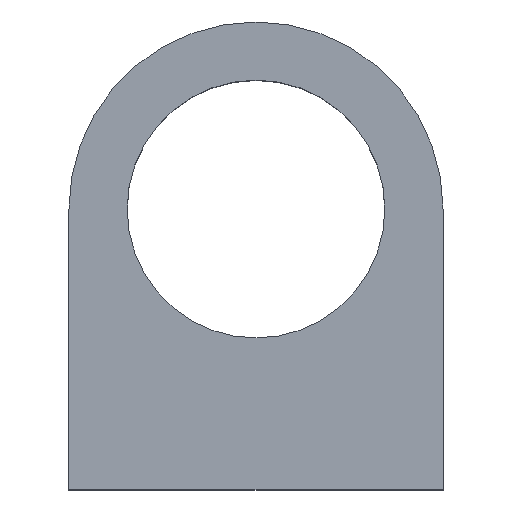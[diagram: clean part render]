
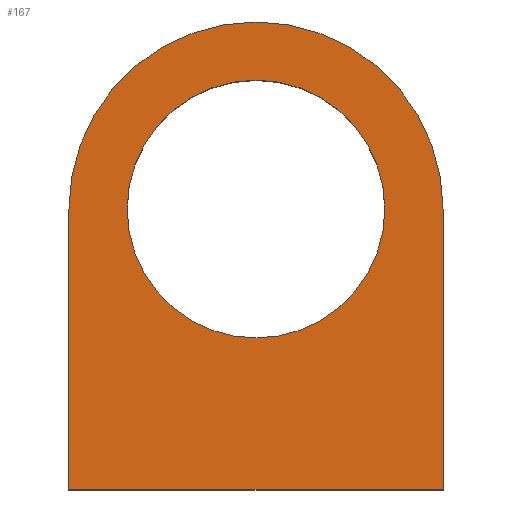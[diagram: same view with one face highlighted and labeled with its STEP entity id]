
A CAD part, top view. The second image highlights one B-rep face of the part: STEP entity #167.
In plain terms, the highlighted planar face has unit normal (0, 0, 1).
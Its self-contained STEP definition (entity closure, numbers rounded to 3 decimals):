
#1 = CARTESIAN_POINT ( 'NONE',  ( -7., 15.24, 10.008 ) ) ;
#2 = FACE_BOUND ( 'NONE', #248, .T. ) ;
#12 = CIRCLE ( 'NONE', #210, 7. ) ;
#13 = EDGE_CURVE ( 'NONE', #36, #112, #118, .T. ) ;
#18 = CARTESIAN_POINT ( 'NONE',  ( 7., 15.24, 10.008 ) ) ;
#25 = PLANE ( 'NONE',  #95 ) ;
#29 = CARTESIAN_POINT ( 'NONE',  ( 0., 15.24, 10.008 ) ) ;
#34 = DIRECTION ( 'NONE',  ( 0., 1., 0. ) ) ;
#35 = EDGE_CURVE ( 'NONE', #175, #65, #139, .T. ) ;
#36 = VERTEX_POINT ( 'NONE', #18 ) ;
#65 = VERTEX_POINT ( 'NONE', #266 ) ;
#75 = CARTESIAN_POINT ( 'NONE',  ( -10.16, 0., 10.008 ) ) ;
#78 = CARTESIAN_POINT ( 'NONE',  ( 0., 15.24, 10.008 ) ) ;
#79 = ORIENTED_EDGE ( 'NONE', *, *, #192, .T. ) ;
#80 = DIRECTION ( 'NONE',  ( 0., 0., 1. ) ) ;
#83 = EDGE_CURVE ( 'NONE', #214, #190, #97, .T. ) ;
#85 = DIRECTION ( 'NONE',  ( 1., 0., 0. ) ) ;
#93 = VECTOR ( 'NONE', #232, 1000. ) ;
#95 = AXIS2_PLACEMENT_3D ( 'NONE', #29, #80, #104 ) ;
#97 = LINE ( 'NONE', #122, #239 ) ;
#99 = DIRECTION ( 'NONE',  ( 1., 0., 0. ) ) ;
#101 = CARTESIAN_POINT ( 'NONE',  ( -10.16, 0., 10.008 ) ) ;
#104 = DIRECTION ( 'NONE',  ( 1., 0., 0. ) ) ;
#108 = CARTESIAN_POINT ( 'NONE',  ( 10.16, 15.24, 10.008 ) ) ;
#111 = ORIENTED_EDGE ( 'NONE', *, *, #252, .F. ) ;
#112 = VERTEX_POINT ( 'NONE', #1 ) ;
#118 = CIRCLE ( 'NONE', #254, 7. ) ;
#122 = CARTESIAN_POINT ( 'NONE',  ( -10.16, 0., 10.008 ) ) ;
#125 = CARTESIAN_POINT ( 'NONE',  ( 10.16, 0., 10.008 ) ) ;
#128 = CARTESIAN_POINT ( 'NONE',  ( 10.16, 0., 10.008 ) ) ;
#132 = CARTESIAN_POINT ( 'NONE',  ( 0., 15.24, 10.008 ) ) ;
#139 = CIRCLE ( 'NONE', #170, 10.16 ) ;
#142 = DIRECTION ( 'NONE',  ( 1., 0., 0. ) ) ;
#148 = EDGE_LOOP ( 'NONE', ( #253, #197, #230, #79 ) ) ;
#151 = DIRECTION ( 'NONE',  ( 0., 0., 1. ) ) ;
#167 = ADVANCED_FACE ( 'NONE', ( #2, #225 ), #25, .T. ) ;
#170 = AXIS2_PLACEMENT_3D ( 'NONE', #274, #151, #85 ) ;
#174 = DIRECTION ( 'NONE',  ( 1., 0., 0. ) ) ;
#175 = VERTEX_POINT ( 'NONE', #108 ) ;
#180 = VECTOR ( 'NONE', #34, 1000. ) ;
#190 = VERTEX_POINT ( 'NONE', #128 ) ;
#192 = EDGE_CURVE ( 'NONE', #190, #175, #249, .T. ) ;
#197 = ORIENTED_EDGE ( 'NONE', *, *, #256, .T. ) ;
#209 = DIRECTION ( 'NONE',  ( 0., 0., 1. ) ) ;
#210 = AXIS2_PLACEMENT_3D ( 'NONE', #78, #209, #142 ) ;
#214 = VERTEX_POINT ( 'NONE', #75 ) ;
#216 = DIRECTION ( 'NONE',  ( 0., 0., 1. ) ) ;
#225 = FACE_OUTER_BOUND ( 'NONE', #148, .T. ) ;
#230 = ORIENTED_EDGE ( 'NONE', *, *, #83, .T. ) ;
#232 = DIRECTION ( 'NONE',  ( 0., -1., 0. ) ) ;
#233 = ORIENTED_EDGE ( 'NONE', *, *, #13, .F. ) ;
#239 = VECTOR ( 'NONE', #99, 1000. ) ;
#247 = LINE ( 'NONE', #101, #93 ) ;
#248 = EDGE_LOOP ( 'NONE', ( #233, #111 ) ) ;
#249 = LINE ( 'NONE', #125, #180 ) ;
#252 = EDGE_CURVE ( 'NONE', #112, #36, #12, .T. ) ;
#253 = ORIENTED_EDGE ( 'NONE', *, *, #35, .T. ) ;
#254 = AXIS2_PLACEMENT_3D ( 'NONE', #132, #216, #174 ) ;
#256 = EDGE_CURVE ( 'NONE', #65, #214, #247, .T. ) ;
#266 = CARTESIAN_POINT ( 'NONE',  ( -10.16, 15.24, 10.008 ) ) ;
#274 = CARTESIAN_POINT ( 'NONE',  ( 0., 15.24, 10.008 ) ) ;
